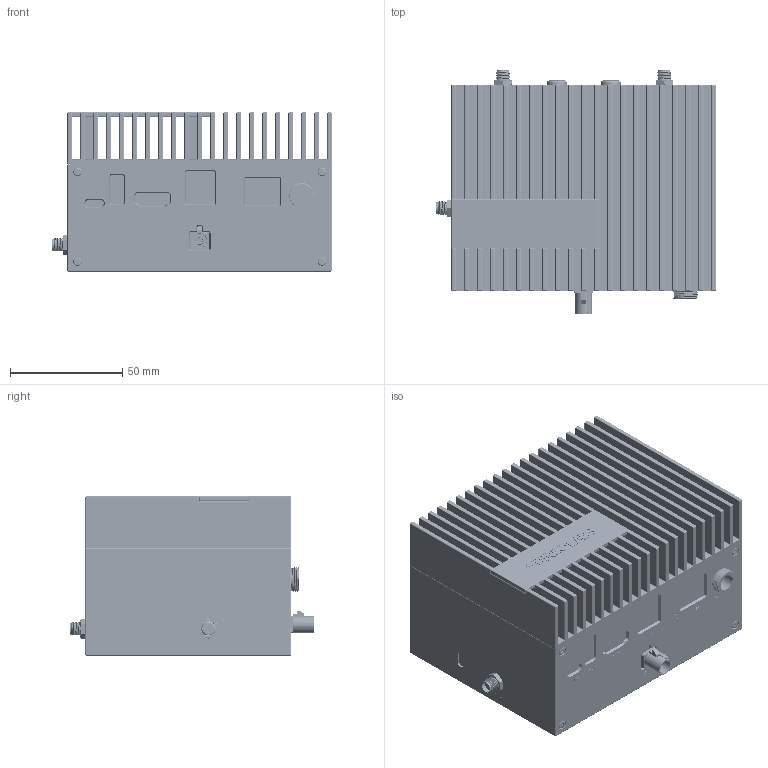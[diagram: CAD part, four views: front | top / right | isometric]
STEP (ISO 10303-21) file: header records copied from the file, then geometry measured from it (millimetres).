
FILE_DESCRIPTION(/* description */ (''),/* implementation_level */ '2;1');
FILE_NAME(/* name */ '[ZED Box Orin NX 8Gb] Model for website.step',/* time_stamp */ '2023-10-25T14:29:13+02:00',/* author */ (''),/* organization */ (''),/* preprocessor_version */ 'ST-DEVELOPER v20',/* originating_system */ 'Autodesk Translation Framework v12.14.0.127',/* authorisation */ '');
FILE_SCHEMA (('AUTOMOTIVE_DESIGN { 1 0 10303 214 3 1 1 }'));
Products named in the file (30): [ZED Box Orin NX] Zed Box Orin NX_asm; [Zed Box Orin NX] Lower case_prt; [ZEDBox Orin NX] Heatsink_prt; [ZED Box Orin NX] Logo_prt; Antennes; Vis tête plate M2x5; [ZED Box Orin NX] Antenna plug; [ZED Box Orin NX] Mono GMSL Marked Faceplate; [ZED Box Orin NX] Mono GMSL Faceplate Marking; [ZEDBox Orin NX] 1_Mono GMSL Faceplate_prt; [ZEDBox Orin NX] 1_Capture Card Adaptater; Leopard - Capture card single; limax9296mipinv v1.020230630; L1210_1210POC-223MRC; R0402; C0402; C0603; SOT-563_AP61100Z6-7; L0806_TFM201610ALMA1R0MTAA; 5052782233; C0805; MP28167-A-Z (QFN-16, 3x3); L_49x49_NRS5040T4R7NMGKV; XL_4(ABM10-25.000MHZ-D30-T3); L0603_PFL1609-561MEU; MAX9296AGTM_V+; BL0402; 59S2AQ-40MT5-E_1; C1210; 532610271
Assembly tree (110 placements, depth 3):
  [ZED Box Orin NX] Zed Box Orin NX_asm
    [Zed Box Orin NX] Lower case_prt
    [ZEDBox Orin NX] Heatsink_prt
    [ZED Box Orin NX] Logo_prt
    Antennes  x3
    Vis tête plate M2x5  x4
    [ZED Box Orin NX] Antenna plug  x2
    [ZED Box Orin NX] Mono GMSL Marked Faceplate
      [ZED Box Orin NX] Mono GMSL Faceplate Marking
      [ZEDBox Orin NX] 1_Mono GMSL Faceplate_prt
    [ZEDBox Orin NX] 1_Capture Card Adaptater
    Leopard - Capture card single
      limax9296mipinv v1.020230630
      L1210_1210POC-223MRC
      R0402  x27
      C0402  x31
      C0603  x10
      SOT-563_AP61100Z6-7  x2
      L0806_TFM201610ALMA1R0MTAA  x2
      5052782233
      C0805  x8
      MP28167-A-Z (QFN-16, 3x3)
      L_49x49_NRS5040T4R7NMGKV
      XL_4(ABM10-25.000MHZ-D30-T3)
      L0603_PFL1609-561MEU
      MAX9296AGTM_V+
      BL0402  x2
      59S2AQ-40MT5-E_1
      C1210
      532610271
Bounding box: 124.86 x 109.19 x 71 mm (x, y, z)
Volume: 631748.2 mm3; surface area: 176927.3 mm2
Topology: 374 solids, 379 shells, 9348 faces, 23572 edges, 14746 vertices
Faces by surface type: plane 5352, cylinder 2311, bspline 855, sphere 504, torus 237, cone 89
Full cylindrical faces by diameter (mm): 0.062 x2, 0.085 x1, 0.1 x1, 0.5 x4, 0.505 x1, 0.8 x4, 0.875 x1, 1.1 x1, 1.27 x3, 1.35 x4, 1.55 x3, 1.623 x4, 1.933 x4, 2 x4, 2.075 x2, 2.5 x3, 2.529 x4, 2.57 x3, 2.6 x2, 2.65 x7, 2.7 x3, 3 x2, 3.332 x4, 3.4 x2, 3.75 x4, 3.84 x3, 3.85 x6, 4 x2, 4.15 x4, 4.775 x1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
Entity records: 181279 total; most frequent: CARTESIAN_POINT 45851, ORIENTED_EDGE 29122, DIRECTION 25512, EDGE_CURVE 14564, LINE 10238, VECTOR 10238, VERTEX_POINT 9425, AXIS2_PLACEMENT_3D 7637
